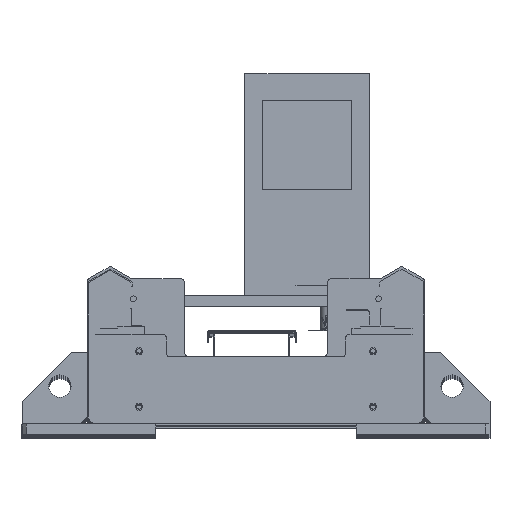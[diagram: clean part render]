
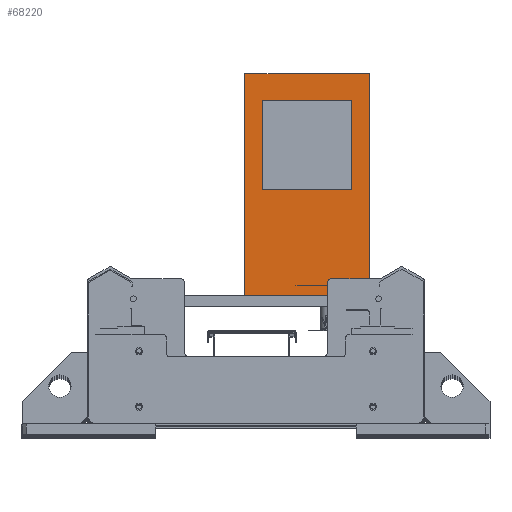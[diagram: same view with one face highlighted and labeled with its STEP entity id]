
A CAD part, top view. The second image highlights one B-rep face of the part: STEP entity #68220.
In plain terms, the highlighted planar face has unit normal (0, 0, 1).
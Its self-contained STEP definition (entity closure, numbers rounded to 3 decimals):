
#54 = DIRECTION ( 'NONE',  ( 0., -1., 0. ) ) ;
#5200 = EDGE_CURVE ( 'NONE', #74908, #5833, #46963, .T. ) ;
#5833 = VERTEX_POINT ( 'NONE', #24038 ) ;
#6225 = ORIENTED_EDGE ( 'NONE', *, *, #14617, .F. ) ;
#10261 = LINE ( 'NONE', #18121, #29511 ) ;
#12768 = CARTESIAN_POINT ( 'NONE',  ( -360.84, 725.482, 3666.25 ) ) ;
#14617 = EDGE_CURVE ( 'NONE', #91390, #74908, #42853, .T. ) ;
#17026 = ORIENTED_EDGE ( 'NONE', *, *, #74202, .T. ) ;
#17324 = VECTOR ( 'NONE', #59282, 1000. ) ;
#17591 = FACE_OUTER_BOUND ( 'NONE', #77137, .T. ) ;
#17785 = CARTESIAN_POINT ( 'NONE',  ( -360.84, 725.482, 3666.25 ) ) ;
#17805 = VECTOR ( 'NONE', #78707, 1000. ) ;
#18121 = CARTESIAN_POINT ( 'NONE',  ( -80.84, 226.982, 3666.25 ) ) ;
#22021 = LINE ( 'NONE', #41437, #44092 ) ;
#24038 = CARTESIAN_POINT ( 'NONE',  ( -80.84, 226.982, 3666.25 ) ) ;
#28192 = CARTESIAN_POINT ( 'NONE',  ( -120.84, 465.482, 3666.25 ) ) ;
#29511 = VECTOR ( 'NONE', #92665, 1000. ) ;
#31663 = ORIENTED_EDGE ( 'NONE', *, *, #77293, .T. ) ;
#34097 = VERTEX_POINT ( 'NONE', #72315 ) ;
#35168 = EDGE_CURVE ( 'NONE', #43408, #5833, #10261, .T. ) ;
#35649 = CARTESIAN_POINT ( 'NONE',  ( -120.84, 665.482, 3666.25 ) ) ;
#39768 = LINE ( 'NONE', #78356, #17805 ) ;
#39778 = ORIENTED_EDGE ( 'NONE', *, *, #47833, .T. ) ;
#39779 = VERTEX_POINT ( 'NONE', #35649 ) ;
#41437 = CARTESIAN_POINT ( 'NONE',  ( -360.84, 725.482, 3666.25 ) ) ;
#42747 = PLANE ( 'NONE',  #54572 ) ;
#42853 = LINE ( 'NONE', #12768, #64849 ) ;
#43120 = DIRECTION ( 'NONE',  ( -1., 0., 0. ) ) ;
#43408 = VERTEX_POINT ( 'NONE', #95140 ) ;
#44092 = VECTOR ( 'NONE', #99373, 1000. ) ;
#44626 = DIRECTION ( 'NONE',  ( -1., 0., 0. ) ) ;
#46963 = LINE ( 'NONE', #99129, #93617 ) ;
#47833 = EDGE_CURVE ( 'NONE', #91390, #43408, #22021, .T. ) ;
#53314 = DIRECTION ( 'NONE',  ( 1., 0., 0. ) ) ;
#54572 = AXIS2_PLACEMENT_3D ( 'NONE', #17785, #92699, #43120 ) ;
#55150 = VECTOR ( 'NONE', #53314, 1000. ) ;
#57774 = LINE ( 'NONE', #78235, #55150 ) ;
#58491 = VECTOR ( 'NONE', #44626, 1000. ) ;
#58601 = EDGE_CURVE ( 'NONE', #34097, #39779, #57774, .T. ) ;
#59282 = DIRECTION ( 'NONE',  ( 0., -1., 0. ) ) ;
#64575 = ORIENTED_EDGE ( 'NONE', *, *, #5200, .F. ) ;
#64849 = VECTOR ( 'NONE', #70634, 1000. ) ;
#65053 = EDGE_LOOP ( 'NONE', ( #31663, #17026, #69149, #85055 ) ) ;
#67176 = EDGE_CURVE ( 'NONE', #106300, #34097, #39768, .T. ) ;
#68220 = ADVANCED_FACE ( 'NONE', ( #105624, #17591 ), #42747, .F. ) ;
#69149 = ORIENTED_EDGE ( 'NONE', *, *, #67176, .T. ) ;
#70634 = DIRECTION ( 'NONE',  ( 1., 0., 0. ) ) ;
#72315 = CARTESIAN_POINT ( 'NONE',  ( -320.84, 665.482, 3666.25 ) ) ;
#74202 = EDGE_CURVE ( 'NONE', #89562, #106300, #102518, .T. ) ;
#74908 = VERTEX_POINT ( 'NONE', #98716 ) ;
#77137 = EDGE_LOOP ( 'NONE', ( #39778, #104349, #64575, #6225 ) ) ;
#77293 = EDGE_CURVE ( 'NONE', #39779, #89562, #105360, .T. ) ;
#78235 = CARTESIAN_POINT ( 'NONE',  ( -120.84, 665.482, 3666.25 ) ) ;
#78356 = CARTESIAN_POINT ( 'NONE',  ( -320.84, 665.482, 3666.25 ) ) ;
#78707 = DIRECTION ( 'NONE',  ( 0., 1., 0. ) ) ;
#83806 = CARTESIAN_POINT ( 'NONE',  ( -120.84, 665.482, 3666.25 ) ) ;
#85055 = ORIENTED_EDGE ( 'NONE', *, *, #58601, .T. ) ;
#89562 = VERTEX_POINT ( 'NONE', #28192 ) ;
#91390 = VERTEX_POINT ( 'NONE', #105308 ) ;
#92665 = DIRECTION ( 'NONE',  ( 1., 0., 0. ) ) ;
#92699 = DIRECTION ( 'NONE',  ( 0., 0., -1. ) ) ;
#93183 = CARTESIAN_POINT ( 'NONE',  ( -320.84, 465.482, 3666.25 ) ) ;
#93617 = VECTOR ( 'NONE', #54, 1000. ) ;
#94202 = CARTESIAN_POINT ( 'NONE',  ( -120.84, 465.482, 3666.25 ) ) ;
#95140 = CARTESIAN_POINT ( 'NONE',  ( -360.84, 226.982, 3666.25 ) ) ;
#98716 = CARTESIAN_POINT ( 'NONE',  ( -80.84, 725.482, 3666.25 ) ) ;
#99129 = CARTESIAN_POINT ( 'NONE',  ( -80.84, 725.482, 3666.25 ) ) ;
#99373 = DIRECTION ( 'NONE',  ( 0., -1., 0. ) ) ;
#102518 = LINE ( 'NONE', #94202, #58491 ) ;
#104349 = ORIENTED_EDGE ( 'NONE', *, *, #35168, .T. ) ;
#105308 = CARTESIAN_POINT ( 'NONE',  ( -360.84, 725.482, 3666.25 ) ) ;
#105360 = LINE ( 'NONE', #83806, #17324 ) ;
#105624 = FACE_BOUND ( 'NONE', #65053, .T. ) ;
#106300 = VERTEX_POINT ( 'NONE', #93183 ) ;
